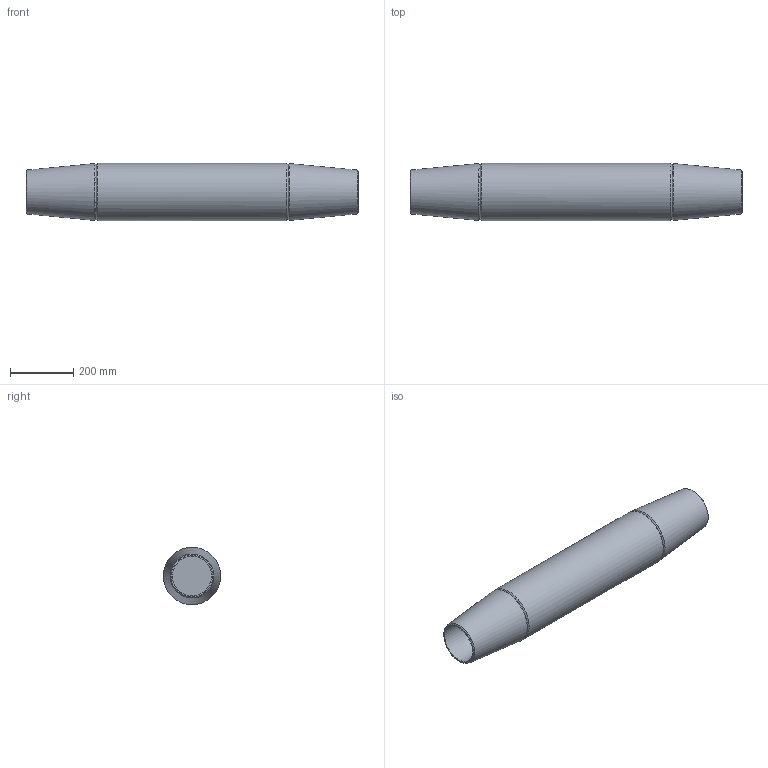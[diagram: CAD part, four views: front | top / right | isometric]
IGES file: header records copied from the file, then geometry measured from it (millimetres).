
Global section: file name: 520-120-MUF; native system: Autodesk Inventor 2016; preprocessor: unknown; author: Administrator; date: 20200630.132528; units: centimetre
Bounding box: 1046 x 180 x 179.79 mm (x, y, z)
Volume: 20309162.8 mm3; surface area: 719691.1 mm2
Topology: 1 solids, 1 shells, 15 faces, 35 edges, 24 vertices
Faces by surface type: bspline 15
